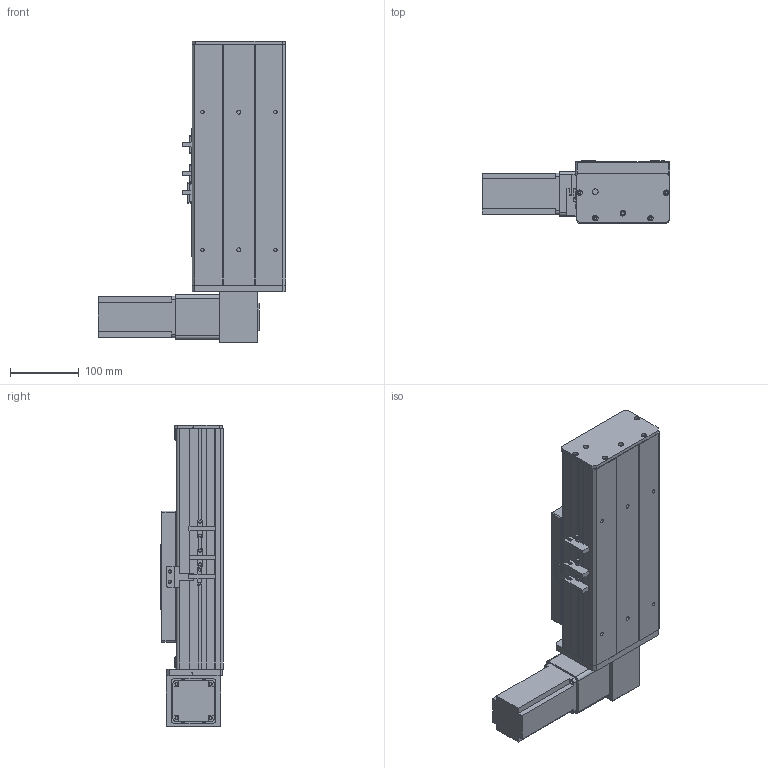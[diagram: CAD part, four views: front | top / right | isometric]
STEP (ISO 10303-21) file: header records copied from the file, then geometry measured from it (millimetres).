
FILE_DESCRIPTION (( 'STEP AP203' ), '1' );
FILE_NAME ('Y135CB-D90-S50-BD-P400W.STEP', '2020-02-19T02:46:12', ( '微软用户' ), ( '微软中国' ), 'SwSTEP 2.0', 'SolidWorks 2017', '' );
FILE_SCHEMA (( 'CONFIG_CONTROL_DESIGN' ));
Length unit declared in the file: millimetre
Products named in the file (16): 5C--俋欶; 0B-埴倛裔啣; C-雄赽釱--; 0B-源倛裔啣; Y10B--々湍喘謫眊--666; san松下电机400不带刹车----; Y135CB-耜裔; 0B-薊粣ん眊; 5CB --掛极耜裔啣-; Y135CB-D90-S50-BD-P400W; C-詩湍揤踡え-陔; 135CB--詩湍-CE; Y100-135俋离換覜ん--; 135CB---遴掛极.-; Y135C-陔俋离換覜結え-; 35CB---喘謫眊楊擘啣
Assembly tree (19 placements, depth 2):
  Y135CB-D90-S50-BD-P400W
    Y135CB-耜裔
    135CB---遴掛极.-
    35CB---喘謫眊楊擘啣
    0B-埴倛裔啣
    0B-源倛裔啣
    san松下电机400不带刹车----
    5CB --掛极耜裔啣-  x2
    C-詩湍揤踡え-陔  x2
    135CB--詩湍-CE
    Y100-135俋离換覜ん--  x3
    Y135C-陔俋离換覜結え-
    5C--俋欶
    C-雄赽釱--
    Y10B--々湍喘謫眊--666
    0B-薊粣ん眊
Bounding box: 272 x 91 x 438 mm (x, y, z)
Volume: 1919783.6 mm3; surface area: 682075.4 mm2
Topology: 19 solids, 19 shells, 835 faces, 2176 edges, 1440 vertices
Faces by surface type: plane 415, cylinder 404, cone 16
Entity records: 25004 total; most frequent: DIRECTION 4164, CARTESIAN_POINT 4035, ORIENTED_EDGE 3828, EDGE_CURVE 1914, AXIS2_PLACEMENT_3D 1517, VERTEX_POINT 1268, LINE 1130, VECTOR 1130
